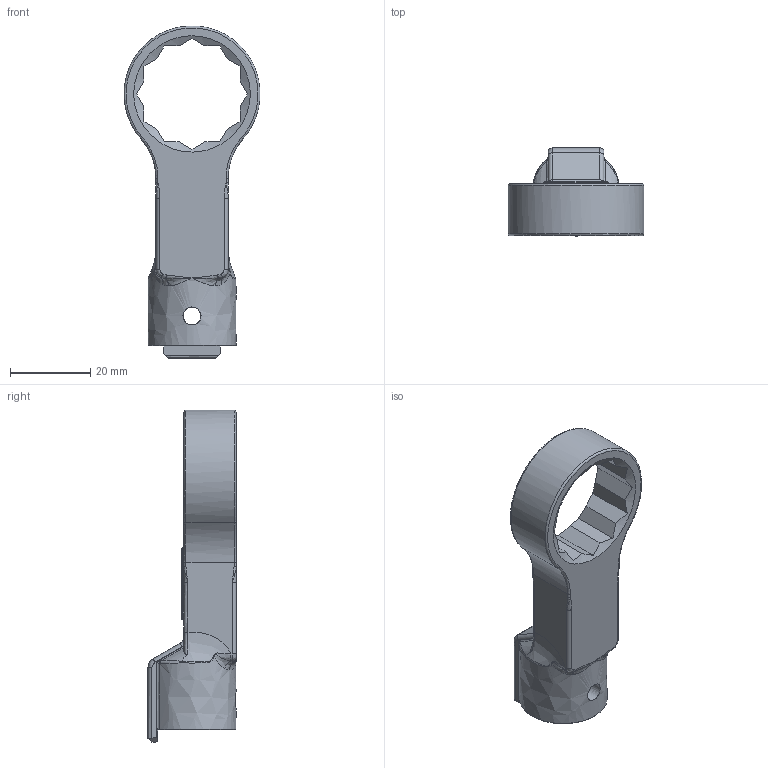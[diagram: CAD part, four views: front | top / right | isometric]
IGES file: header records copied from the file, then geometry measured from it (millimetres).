
Global section: file name: RH15DX24; native system: Autodesk Inventor 2016; preprocessor: unknown; author: Q600; date: 20151110.161336; units: millimetre
Bounding box: 33.97 x 22 x 82.97 mm (x, y, z)
Volume: 15733 mm3; surface area: 7425.2 mm2
Topology: 1 solids, 1 shells, 166 faces, 435 edges, 256 vertices
Faces by surface type: bspline 166
